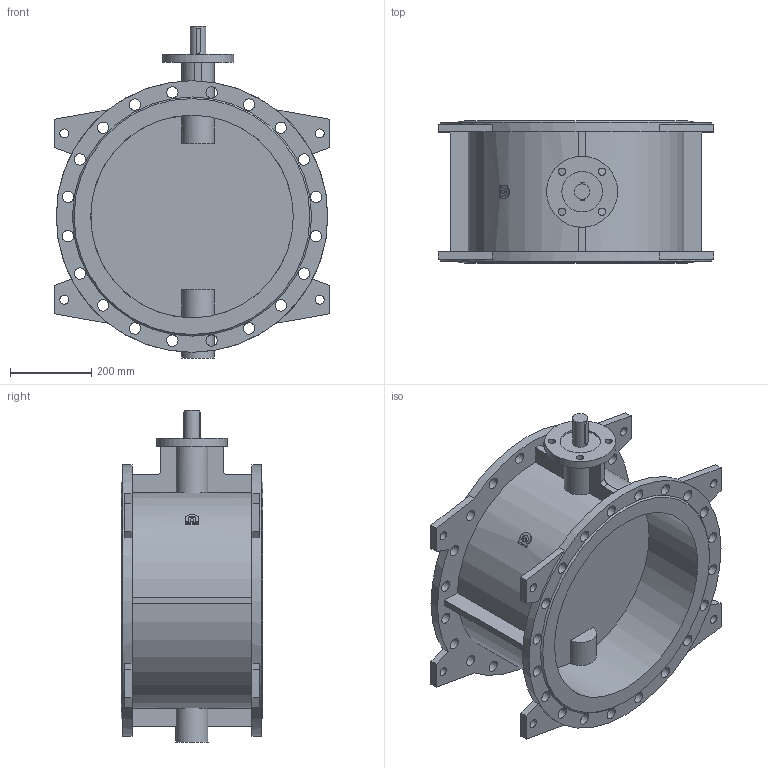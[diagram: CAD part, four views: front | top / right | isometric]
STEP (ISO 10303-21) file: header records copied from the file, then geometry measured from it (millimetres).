
FILE_DESCRIPTION(('STEP AP203'), '1');
FILE_NAME('Çàòâîð 023F.Z DN500 PN10_èñï', '', ('UNSPECIFIED'), ('UNSPECIFIED'), 'ASCON STEP Converter 1.6', 'ASCON Math Kernel', '');
FILE_SCHEMA(('CONFIG_CONTROL_DESIGN'));
Length unit declared in the file: millimetre
Bounding box: 680 x 350 x 819 mm (x, y, z)
Volume: 27284471.8 mm3; surface area: 2414735.3 mm2
Topology: 1 solids, 1 shells, 166 faces, 453 edges, 302 vertices
Faces by surface type: plane 85, cylinder 79, cone 2
Full cylindrical faces by diameter (mm): 18 x4, 22 x8, 28 x40, 38 x1, 80 x1, 100 x1, 175 x1, 500 x2, 670 x2
Entity records: 7671 total; most frequent: CARTESIAN_POINT 1999, DIRECTION 878, ORIENTED_EDGE 780, EDGE_CURVE 390, EDGE_LOOP 346, AXIS2_PLACEMENT_3D 340, VERTEX_POINT 302, FACE_BOUND 226
